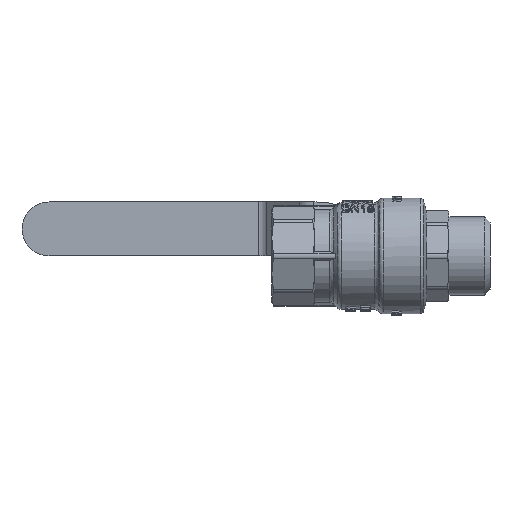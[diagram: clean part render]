
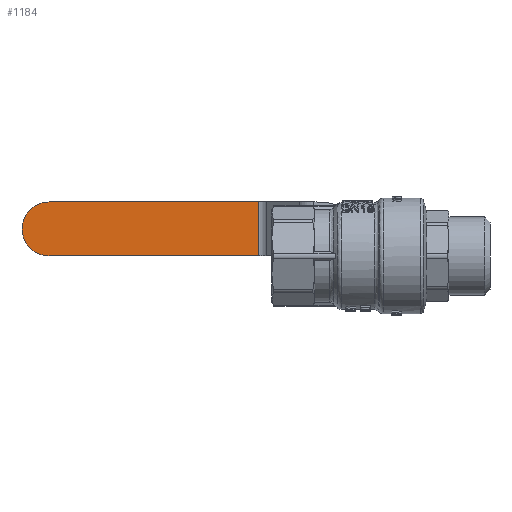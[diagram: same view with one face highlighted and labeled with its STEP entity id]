
A CAD part, front view. The second image highlights one B-rep face of the part: STEP entity #1184.
In plain terms, the highlighted planar face has unit normal (0, -1, 0).
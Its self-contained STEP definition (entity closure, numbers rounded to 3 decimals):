
#1184=ADVANCED_FACE('',(#9656),#9658,.F.);
#9656=FACE_BOUND('',#9657,.T.);
#9657=EDGE_LOOP('',(#18664,#18665,#18666,#18667));
#9658=PLANE('',#9659);
#9659=AXIS2_PLACEMENT_3D('',#9660,#9661,#9662);
#9660=CARTESIAN_POINT('',(3.975,39.727,0.));
#9661=DIRECTION('',(0.,1.,0.));
#9662=DIRECTION('',(-1.,0.,0.));
#18664=ORIENTED_EDGE('',*,*,#23735,.F.);
#18665=ORIENTED_EDGE('',*,*,#23692,.F.);
#18666=ORIENTED_EDGE('',*,*,#23736,.F.);
#18667=ORIENTED_EDGE('',*,*,#23737,.F.);
#23692=EDGE_CURVE('',#30203,#30204,#30205,.T.);
#23735=EDGE_CURVE('',#30204,#30264,#30265,.T.);
#23736=EDGE_CURVE('',#30266,#30203,#30267,.T.);
#23737=EDGE_CURVE('',#30264,#30266,#30268,.F.);
#30203=VERTEX_POINT('',#49099);
#30204=VERTEX_POINT('',#49100);
#30205=LINE('',#49101,#49102);
#30264=VERTEX_POINT('',#49521);
#30265=LINE('',#49522,#49523);
#30266=VERTEX_POINT('',#49525);
#30267=LINE('',#49526,#49527);
#30268=CIRCLE('',#49529,7.25);
#49099=CARTESIAN_POINT('',(-28.698,39.727,14.5));
#49100=CARTESIAN_POINT('',(-28.698,39.727,0.));
#49101=CARTESIAN_POINT('',(-28.698,39.727,14.5));
#49102=VECTOR('',#49103,1.);
#49103=DIRECTION('',(0.,0.,-1.));
#49521=CARTESIAN_POINT('',(-84.768,39.727,0.));
#49522=CARTESIAN_POINT('',(-28.698,39.727,0.));
#49523=VECTOR('',#49524,1.);
#49524=DIRECTION('',(-1.,0.,0.));
#49525=CARTESIAN_POINT('',(-84.768,39.727,14.5));
#49526=CARTESIAN_POINT('',(-84.768,39.727,14.5));
#49527=VECTOR('',#49528,1.);
#49528=DIRECTION('',(1.,0.,0.));
#49529=AXIS2_PLACEMENT_3D('',#49530,#49531,#49532);
#49530=CARTESIAN_POINT('',(-84.768,39.727,7.25));
#49531=DIRECTION('',(0.,-1.,0.));
#49532=DIRECTION('',(0.,0.,1.));
